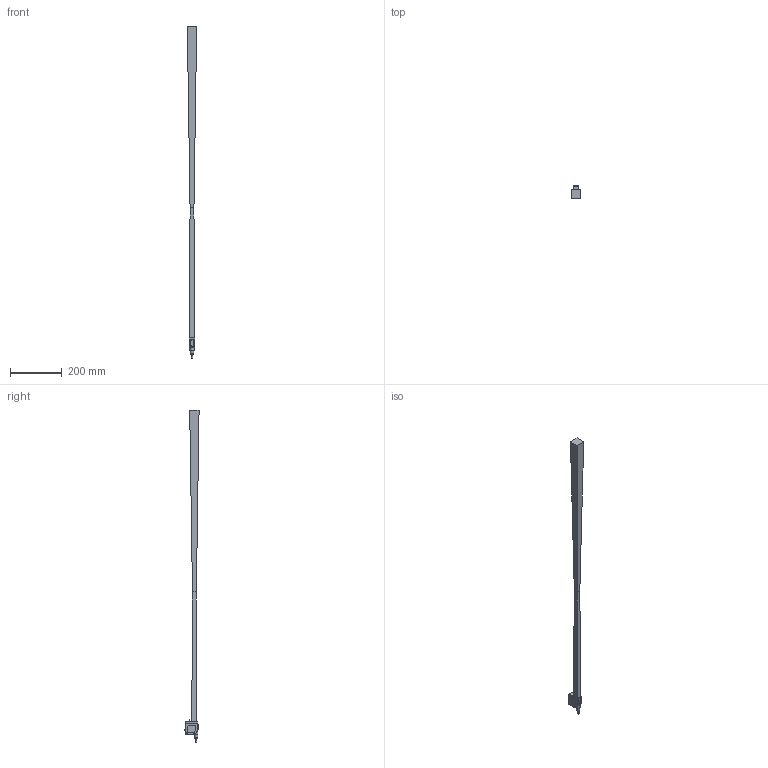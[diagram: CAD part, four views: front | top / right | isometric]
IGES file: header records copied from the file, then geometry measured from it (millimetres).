
Global section: file name: 623-11004_FT 55-RH-NS-K4; native system: Autodesk Inventor 2022; preprocessor: unknown; author: Sandra.Stahl; date: 20220727.000114; units: millimetre
Bounding box: 36 x 54.4 x 1277.3 mm (x, y, z)
Volume: 688498.1 mm3; surface area: 119247.6 mm2
Topology: 5 solids, 5 shells, 236 faces, 573 edges, 357 vertices
Faces by surface type: bspline 236
